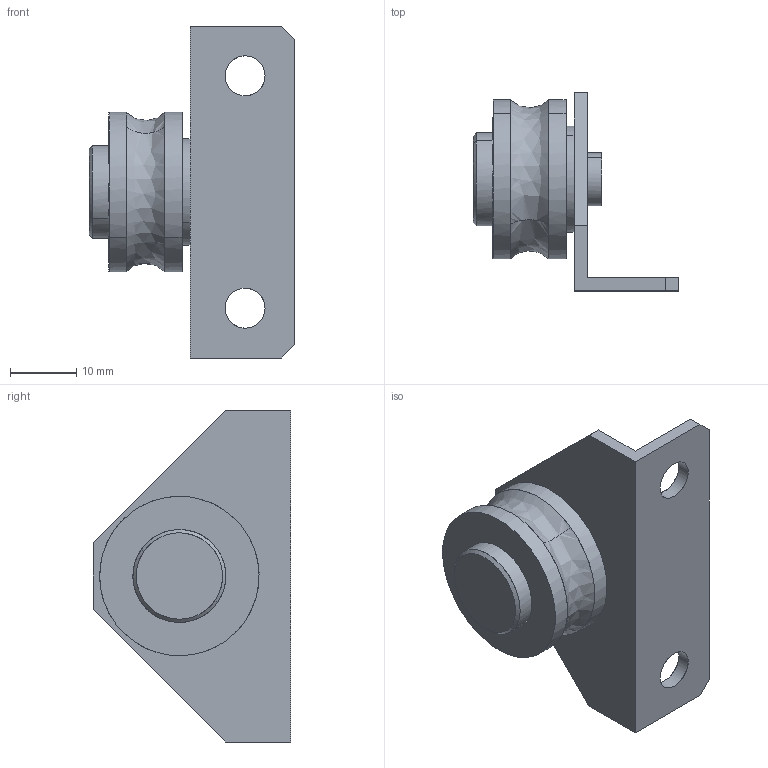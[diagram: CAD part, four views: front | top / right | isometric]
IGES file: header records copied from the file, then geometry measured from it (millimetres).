
Global section: file name: No Iges File Name specified; native system: AutoDesk Inventor R11.0; preprocessor: AutoDesk Inventor Iges Exporter R11.0; author: No Author specified; organization: No Organization specified; date: 20190511.110121; units: millimetre
Bounding box: 31 x 29.8 x 50 mm (x, y, z)
Surface area: 5824.2 mm2 (no closed solid volume)
Topology: 0 solids, 0 shells, 37 faces, 244 edges, 244 vertices
Faces by surface type: bspline 37
